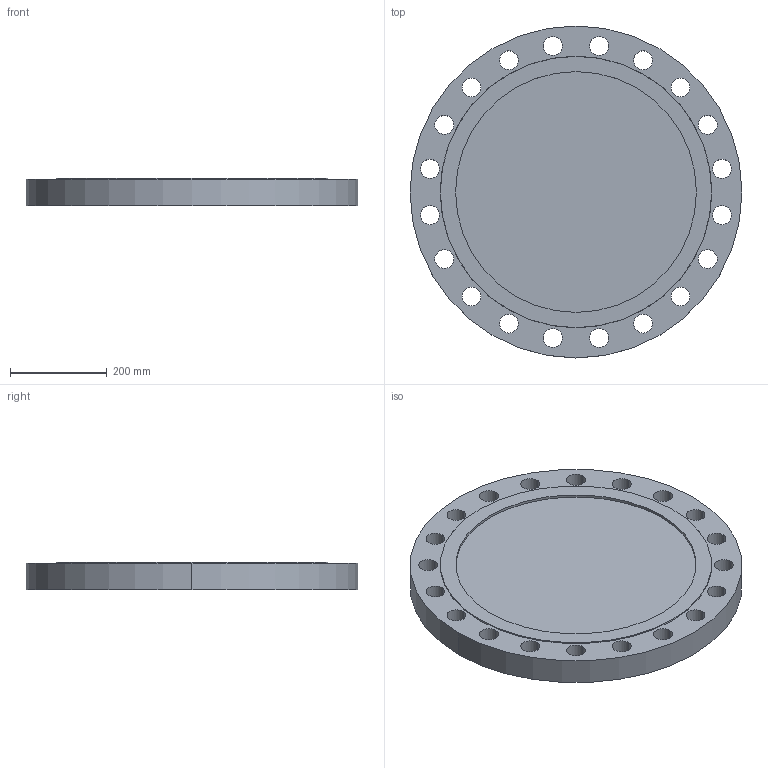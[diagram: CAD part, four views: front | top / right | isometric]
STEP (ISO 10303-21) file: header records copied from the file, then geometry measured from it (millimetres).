
FILE_DESCRIPTION (( 'STEP AP214' ), '1' );
FILE_NAME ('PN40 DN450 Type 05 - Type G Face.STEP', '2018-12-29T02:44:59', ( '' ), ( '' ), 'SwSTEP 2.0', 'SolidWorks 2019', '' );
FILE_SCHEMA (( 'AUTOMOTIVE_DESIGN' ));
Length unit declared in the file: millimetre
Products named in the file (1): PN40 DN450 Type 05 - Type G Face
Bounding box: 685 x 685 x 57 mm (x, y, z)
Volume: 18381235.4 mm3; surface area: 953949 mm2
Topology: 1 solids, 1 shells, 50 faces, 138 edges, 92 vertices
Faces by surface type: cylinder 44, plane 4, cone 2
Entity records: 1768 total; most frequent: DIRECTION 332, CARTESIAN_POINT 281, ORIENTED_EDGE 276, AXIS2_PLACEMENT_3D 143, EDGE_CURVE 138, CIRCLE 92, VERTEX_POINT 92, EDGE_LOOP 92
